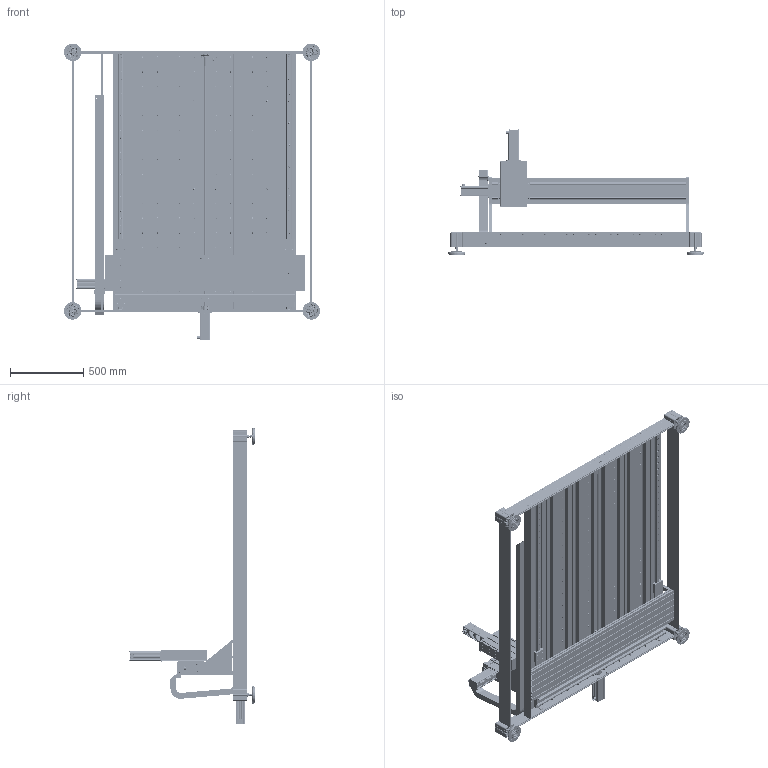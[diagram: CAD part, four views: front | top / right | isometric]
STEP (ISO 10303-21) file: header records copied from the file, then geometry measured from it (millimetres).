
FILE_DESCRIPTION (( 'STEP AP203' ), '1' );
FILE_NAME ('STEP_-_X-Y-Z Flachbetteinheit FB2 - ArtNr 246203 2130M - ArtNr 230514M.step', '2015-04-22T15:07:39', ( '' ), ( '' ), 'SwSTEP 2.0', 'SolidWorks 2014', '' );
FILE_SCHEMA (( 'CONFIG_CONTROL_DESIGN' ));
Length unit declared in the file: millimetre
Products named in the file (6): Tisch 1250x1750; Tisch Baugruppe_1250x1750; TE0179 - F黨rungsschlitten_F乭rungsschlitten f乺 KG-Mutter Typ25; Z-Achse FB2 Hub 70mm; X-Y-Achse f黵 Verfahrweg 1030; STEP_-_X-Y-Z Flachbetteinheit FB2 - ArtNr 246203 2130M - ArtNr 230514M
Assembly tree (6 placements, depth 3):
  STEP_-_X-Y-Z Flachbetteinheit FB2 - ArtNr 246203 2130M - ArtNr 230514M
    Tisch Baugruppe_1250x1750
      Tisch 1250x1750
    TE0179 - F黨rungsschlitten_F乭rungsschlitten f乺 KG-Mutter Typ25  x2
    Z-Achse FB2 Hub 70mm
    X-Y-Achse f黵 Verfahrweg 1030
Bounding box: 1750 x 854.3 x 2028.3 mm (x, y, z)
Volume: 54792757.2 mm3; surface area: 37242124.9 mm2
Topology: 603 solids, 604 shells, 19554 faces, 49654 edges, 32047 vertices
Faces by surface type: plane 11472, cylinder 5237, cone 1311, torus 952, bspline 426, sphere 156
Full cylindrical faces by diameter (mm): 1.5 x10, 1.7 x1, 2 x4, 2.33 x2, 2.4 x2, 2.5 x34, 3 x20, 3.2 x14, 4 x22, 4.2 x14, 4.5 x24, 4.6 x6, 4.8 x8, 5 x78, 5.2 x40, 5.5 x21, 6 x405, 6.1 x12, 6.35 x2, 6.4 x10, 6.5 x88, 6.6 x68, 7 x309, 7.2 x3, 7.5 x42, 8 x14, 8.5 x16, 9 x1, 9.2 x3, 9.8 x2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
Entity records: 621149 total; most frequent: CARTESIAN_POINT 179239, DIRECTION 88332, ORIENTED_EDGE 86914, EDGE_CURVE 43457, AXIS2_PLACEMENT_3D 31109, VERTEX_POINT 30336, EDGE_LOOP 26429, VECTOR 26114
